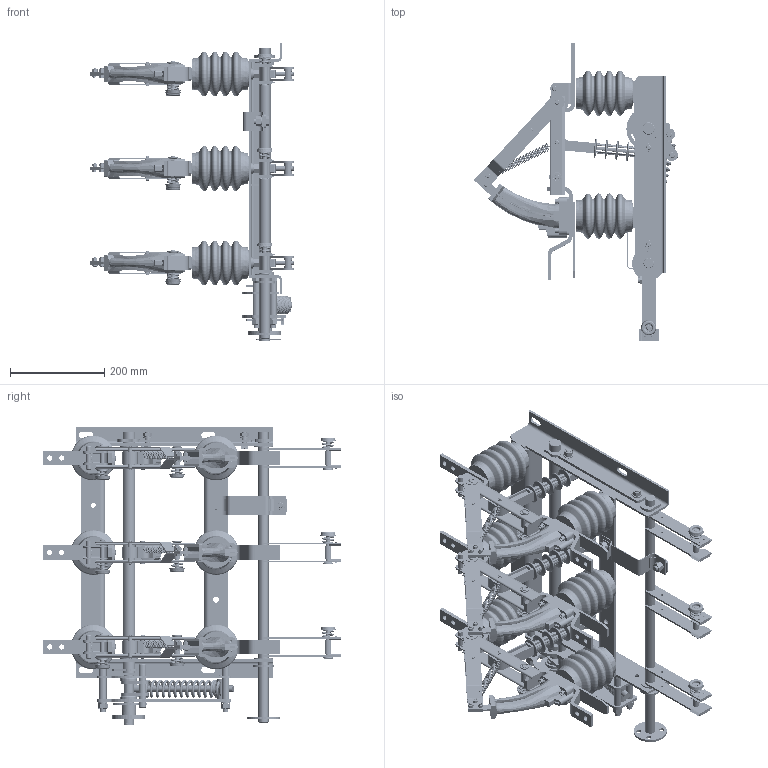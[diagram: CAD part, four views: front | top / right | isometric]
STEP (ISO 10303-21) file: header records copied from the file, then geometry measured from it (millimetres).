
FILE_DESCRIPTION (( 'STEP AP203' ), '1' );
FILE_NAME ('ÂÍÀÏ-10-630-Iç-Ô-ÓÕË2-ÊÝÀÇ.STEP', '2026-09-18T07:32:51', ( '' ), ( '' ), 'SwSTEP 2.0', 'SolidWorks 2018', '' );
FILE_SCHEMA (( 'CONFIG_CONTROL_DESIGN' ));
Products named in the file (1): ÂÍÀÏ-10-630-Iç-Ô-ÓÕË2-ÊÝÀÇ
Bounding box: 431.53 x 632 x 631.5 mm (x, y, z)
Surface area: 1860829.2 mm2 (no closed solid volume)
Topology: 0 solids, 460 shells, 3824 faces, 12166 edges, 8533 vertices
Faces by surface type: plane 1552, cylinder 1255, cone 579, torus 312, bspline 126
Entity records: 220781 total; most frequent: CARTESIAN_POINT 113711, DIRECTION 23860, ORIENTED_EDGE 19062, EDGE_CURVE 12152, AXIS2_PLACEMENT_3D 9454, VERTEX_POINT 8534, CIRCLE 5755, LINE 4952
